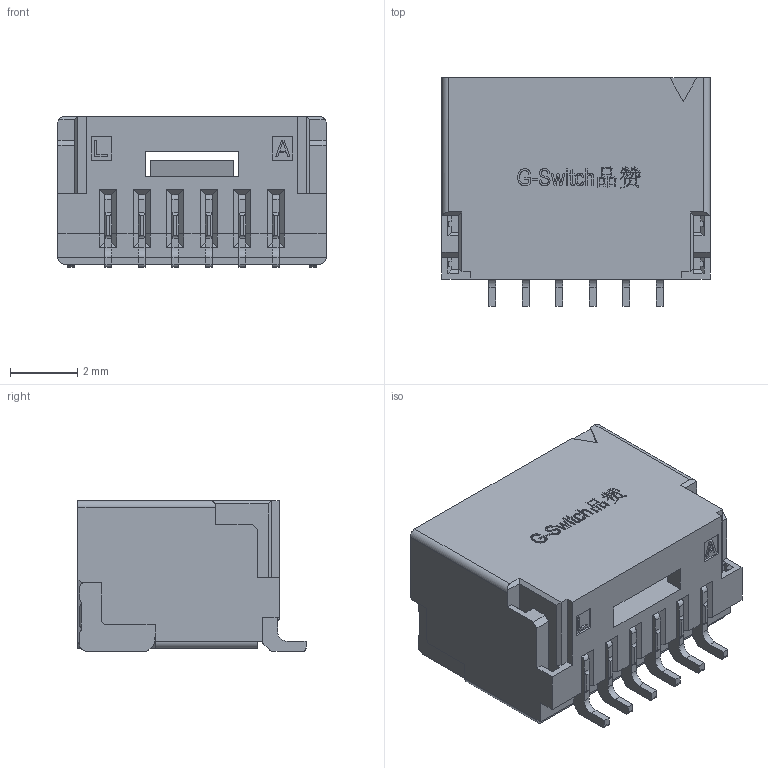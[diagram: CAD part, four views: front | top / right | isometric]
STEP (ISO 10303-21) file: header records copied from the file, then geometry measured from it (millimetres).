
FILE_DESCRIPTION (( 'STEP AP203' ), '1' );
FILE_NAME ('GT-A1010WRS-106SBT01.STEP', '2025-12-27T10:16:19', ( '' ), ( '' ), 'SwSTEP 2.0', 'SolidWorks 2020', '' );
FILE_SCHEMA (( 'CONFIG_CONTROL_DESIGN' ));
Length unit declared in the file: millimetre
Products named in the file (1): GT-A1010WRS-106SBT01
Bounding box: 8 x 6.8 x 4.5 mm (x, y, z)
Volume: 107.8 mm3; surface area: 446.3 mm2
Topology: 1 solids, 1 shells, 969 faces, 2773 edges, 1808 vertices
Faces by surface type: plane 732, cylinder 158, bspline 71, cone 8
Entity records: 34837 total; most frequent: CARTESIAN_POINT 9801, ORIENTED_EDGE 5546, DIRECTION 4651, EDGE_CURVE 2773, LINE 2293, VECTOR 2293, VERTEX_POINT 1808, AXIS2_PLACEMENT_3D 1179
